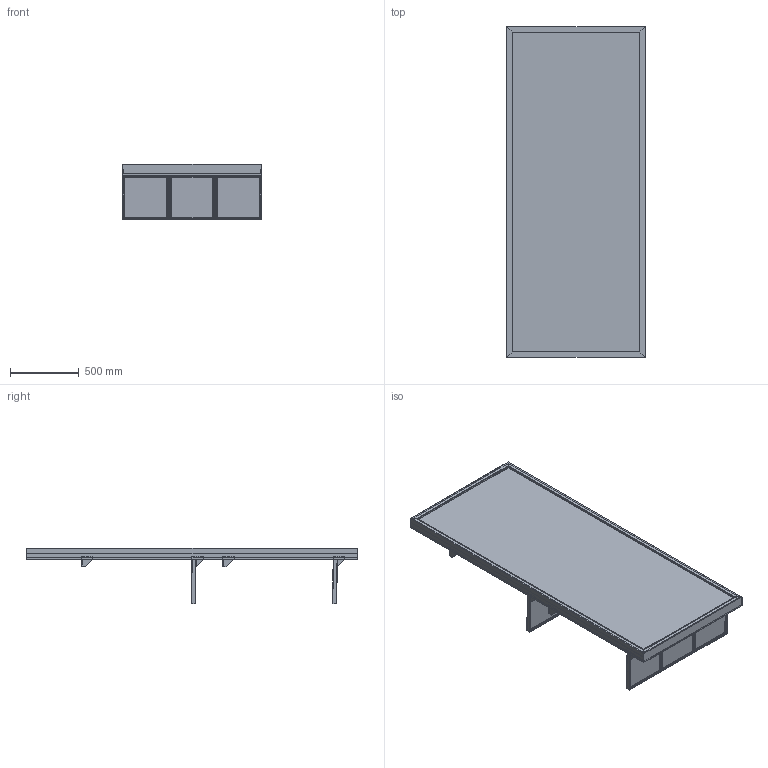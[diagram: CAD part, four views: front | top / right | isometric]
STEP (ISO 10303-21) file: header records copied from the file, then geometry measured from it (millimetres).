
FILE_DESCRIPTION (( 'STEP AP203' ), '1' );
FILE_NAME ('Slotted UpBright® Retail Putter Wall Display.STEP', '2026-03-31T10:51:02', ( '' ), ( '' ), 'SwSTEP 2.0', 'SolidWorks 2025', '' );
FILE_SCHEMA (( 'CONFIG_CONTROL_DESIGN' ));
Length unit declared in the file: millimetre
Products named in the file (11): 366-01-SA01_默认; 366-01-01_默认; 366-01-SA02_默认; 0001-31-GA10 - 1005W Slotted upbright; Slotted UpBright® Retail Putter Wall Display; 366-01-02_默认; 366-01-03_默认; 366-01-06_默认; 366-01-07_默认; 366-01-05_默认; 366-01-04_默认
Assembly tree (17 placements, depth 3):
  Slotted UpBright® Retail Putter Wall Display
    0001-31-GA10 - 1005W Slotted upbright
    366-01-SA02_默认  x2
      366-01-06_默认
      366-01-07_默认
    366-01-SA01_默认  x2
      366-01-01_默认
      366-01-02_默认
      366-01-03_默认
      366-01-05_默认
      366-01-04_默认
Bounding box: 1005.74 x 2400 x 400.43 mm (x, y, z)
Volume: 9724890.2 mm3; surface area: 14487143.2 mm2
Topology: 30 solids, 30 shells, 1644 faces, 5036 edges, 3288 vertices
Faces by surface type: plane 1172, cylinder 456, bspline 16
Entity records: 36962 total; most frequent: CARTESIAN_POINT 7094, ORIENTED_EDGE 6438, DIRECTION 5327, EDGE_CURVE 3219, VECTOR 2825, LINE 2825, VERTEX_POINT 2122, AXIS2_PLACEMENT_3D 1251
